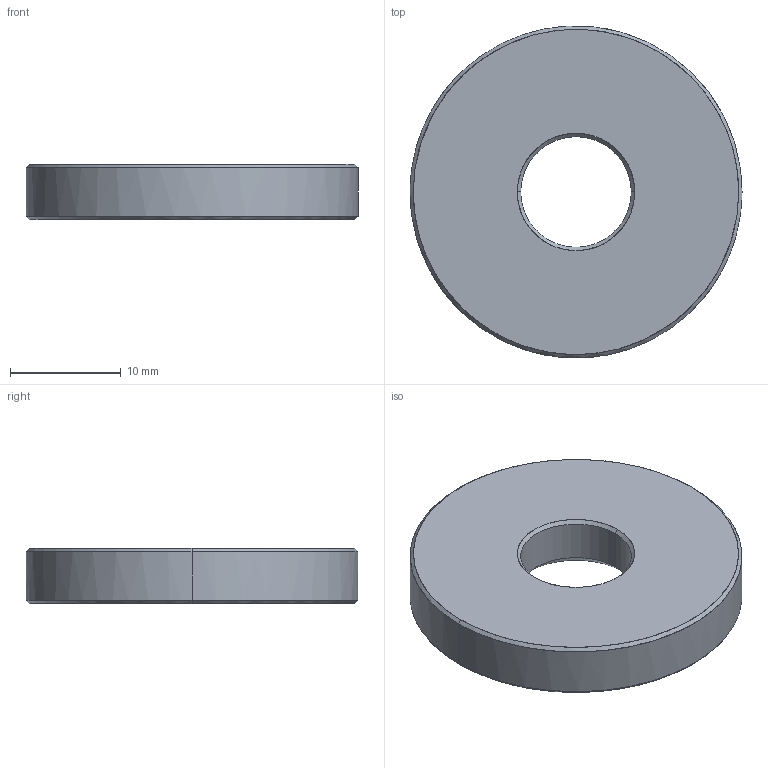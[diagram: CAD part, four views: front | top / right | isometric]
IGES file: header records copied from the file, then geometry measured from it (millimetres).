
Global section: file name: E:\UnigraphicsGraphicData\MISUMI_PRESS-PARTS\IGES\3d_r16-30_00108_r00.igs; native system: NX V5.0; preprocessor: UGS NX IGES V5.0; author: MISUMI; date: 20110105.162335; units: millimetre
Bounding box: 30 x 29.96 x 5 mm (x, y, z)
Surface area: 1828.7 mm2 (no closed solid volume)
Topology: 0 solids, 0 shells, 14 faces, 96 edges, 96 vertices
Faces by surface type: bspline 14
